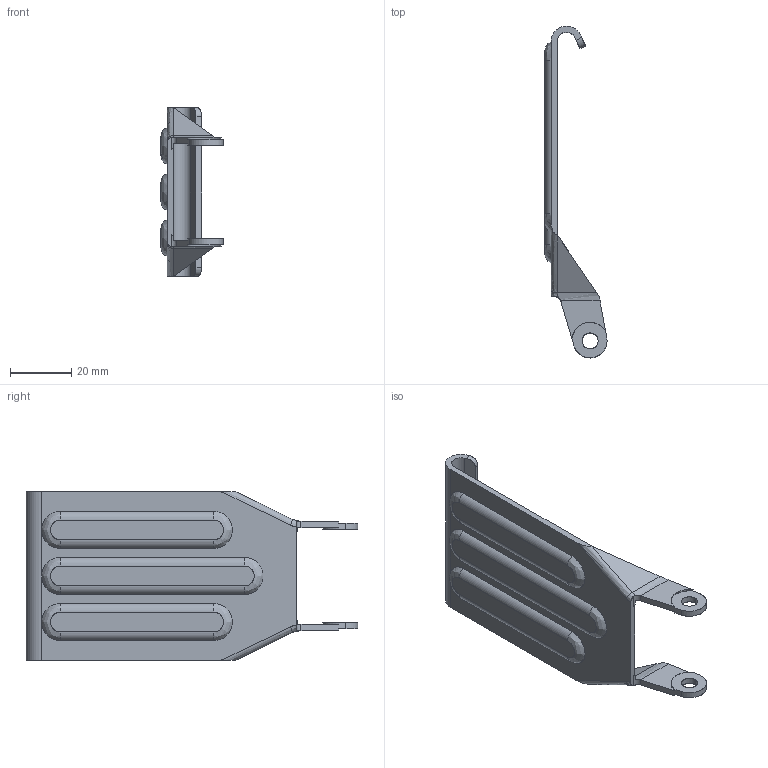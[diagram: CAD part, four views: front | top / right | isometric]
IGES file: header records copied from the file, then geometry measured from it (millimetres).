
Start section: SolidWorks IGES FILE using analytic representation for surfaces
Global section: file name: C:\Documents and Settings\lecoutey\Bureau\GP 48\48.030.10.IGS; native system: SolidWorks 2004 by SolidWorks Corporation; preprocessor: Version 5.3; author: lecoutey; date: 050329.145433; units: millimetre
Bounding box: 20.2 x 107.99 x 55 mm (x, y, z)
Surface area: 13312.6 mm2 (no closed solid volume)
Topology: 0 solids, 0 shells, 82 faces, 1273 edges, 1273 vertices
Faces by surface type: bspline 46, revolution 36
